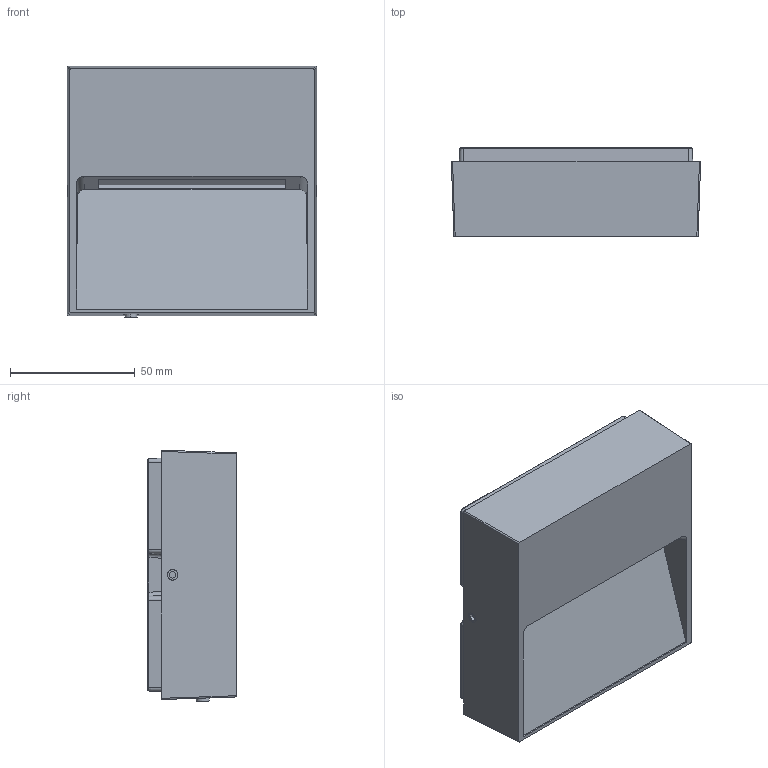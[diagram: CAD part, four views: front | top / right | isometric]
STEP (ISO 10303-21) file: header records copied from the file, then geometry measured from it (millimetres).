
FILE_DESCRIPTION (( 'STEP AP203' ), '1' );
FILE_NAME ('NASHIRA - A20620 - APLIQUE CUADRADO.STEP', '2026-01-22T07:49:00', ( '' ), ( '' ), 'SwSTEP 2.0', 'SolidWorks 2025', '' );
FILE_SCHEMA (( 'CONFIG_CONTROL_DESIGN' ));
Length unit declared in the file: millimetre
Products named in the file (1): NASHIRA - A20620 - APLIQUE CUADRADO
Bounding box: 100 x 35.5 x 100.92 mm (x, y, z)
Volume: 232288.4 mm3; surface area: 60103.8 mm2
Topology: 1 solids, 3 shells, 857 faces, 2302 edges, 1502 vertices
Faces by surface type: plane 592, cylinder 98, bspline 90, cone 35, torus 30, sphere 12
Entity records: 29901 total; most frequent: CARTESIAN_POINT 9076, ORIENTED_EDGE 4596, DIRECTION 3799, EDGE_CURVE 2298, LINE 1787, VECTOR 1787, VERTEX_POINT 1502, AXIS2_PLACEMENT_3D 1006
